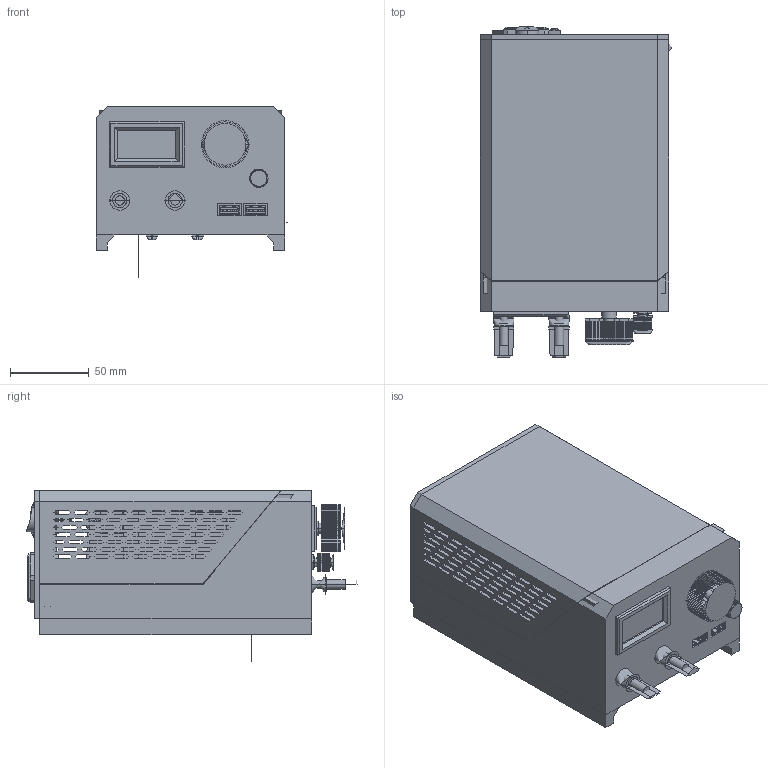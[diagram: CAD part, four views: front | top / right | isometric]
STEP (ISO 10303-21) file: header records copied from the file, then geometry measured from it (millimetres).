
FILE_DESCRIPTION(/* description */ (''),/* implementation_level */ '2;1');
FILE_NAME(/* name */ 'lab PSU',/* time_stamp */ '2021-09-15T01:39:34+04:00',/* author */ (''),/* organization */ (''),/* preprocessor_version */ 'ST-DEVELOPER v16.5',/* originating_system */ '',/* authorisation */ '');
FILE_SCHEMA (('AUTOMOTIVE_DESIGN'));
Products named in the file (1): Document
Bounding box: 121.89 x 210.29 x 108.58 mm (x, y, z)
Volume: 461874.1 mm3; surface area: 336952.4 mm2
Topology: 140 solids, 147 shells, 4602 faces, 11994 edges, 7712 vertices
Faces by surface type: plane 2581, bspline 2021
Entity records: 148911 total; most frequent: CARTESIAN_POINT 70217, ORIENTED_EDGE 23724, EDGE_CURVE 11915, B_SPLINE_CURVE_WITH_KNOTS 10024, VERTEX_POINT 7647, EDGE_LOOP 5395, ADVANCED_FACE 4602, FACE_OUTER_BOUND 4602
